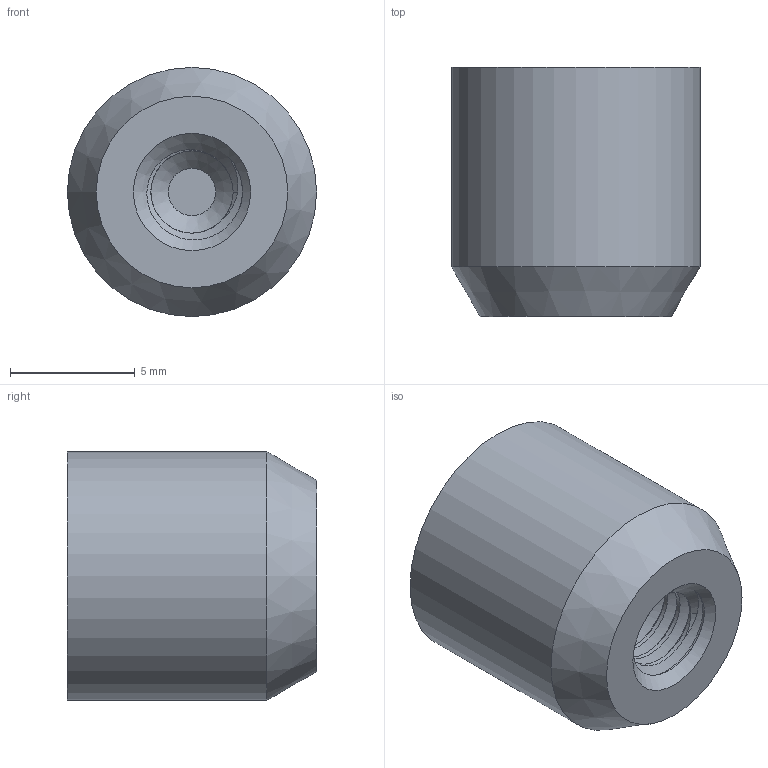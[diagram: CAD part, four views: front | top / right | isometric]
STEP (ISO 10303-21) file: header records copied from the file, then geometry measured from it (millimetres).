
FILE_DESCRIPTION (( 'STEP AP214' ), '1' );
FILE_NAME ('PET-10.STEP', '2018-10-09T18:02:36', ( '' ), ( '' ), 'SwSTEP 2.0', 'SolidWorks 2017', '' );
FILE_SCHEMA (( 'AUTOMOTIVE_DESIGN' ));
Length unit declared in the file: millimetre
Products named in the file (1): PET-10
Bounding box: 10 x 10 x 10 mm (x, y, z)
Volume: 670.6 mm3; surface area: 567.2 mm2
Topology: 1 solids, 1 shells, 111 faces, 301 edges, 200 vertices
Faces by surface type: plane 72, bspline 25, cylinder 10, cone 4
Full cylindrical faces by diameter (mm): 3.3 x8, 10 x1
Entity records: 4770 total; most frequent: CARTESIAN_POINT 2430, ORIENTED_EDGE 534, DIRECTION 356, EDGE_CURVE 267, LINE 186, VECTOR 186, VERTEX_POINT 180, EDGE_LOOP 115
